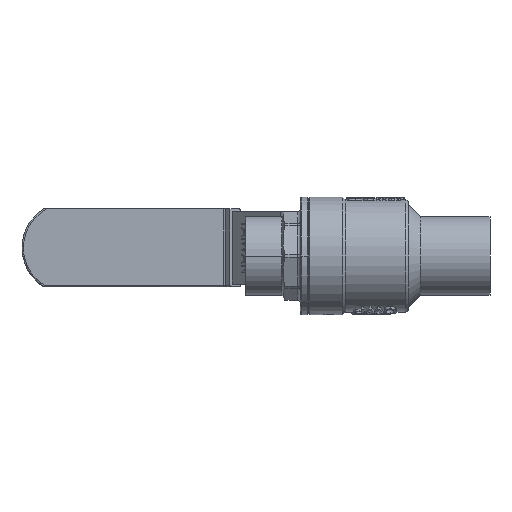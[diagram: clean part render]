
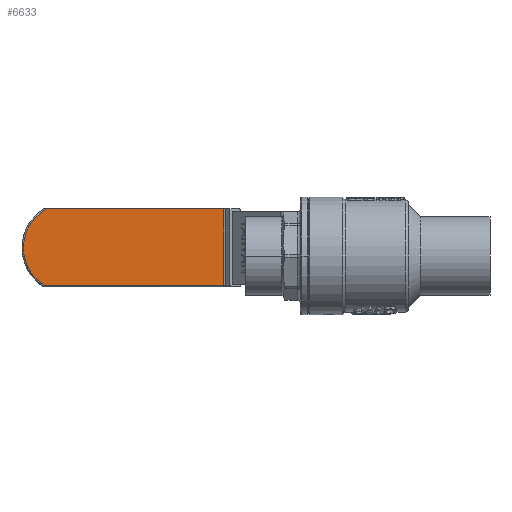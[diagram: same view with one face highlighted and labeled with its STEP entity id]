
A CAD part, front view. The second image highlights one B-rep face of the part: STEP entity #6633.
In plain terms, the highlighted planar face has unit normal (0, -1, 0).
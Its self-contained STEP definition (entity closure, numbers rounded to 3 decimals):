
#3380 = ORIENTED_EDGE ( 'NONE', *, *, #68131, .T. ) ;
#5030 = ORIENTED_EDGE ( 'NONE', *, *, #106559, .T. ) ;
#5799 = CARTESIAN_POINT ( 'NONE',  ( 105., 20.5, 0. ) ) ;
#6633 = ADVANCED_FACE ( 'NONE', ( #67453 ), #72790, .F. ) ;
#12113 = VECTOR ( 'NONE', #48602, 1000. ) ;
#14528 = DIRECTION ( 'NONE',  ( 0., 1., 0. ) ) ;
#15925 = DIRECTION ( 'NONE',  ( 0., 0., -1. ) ) ;
#20841 = CARTESIAN_POINT ( 'NONE',  ( 50.456, 20.5, -13.65 ) ) ;
#21005 = EDGE_CURVE ( 'NONE', #98211, #22870, #33605, .T. ) ;
#22113 = CARTESIAN_POINT ( 'NONE',  ( 112.344, 20.5, -13.65 ) ) ;
#22870 = VERTEX_POINT ( 'NONE', #91643 ) ;
#22993 = DIRECTION ( 'NONE',  ( 0., 0., 1. ) ) ;
#22996 = DIRECTION ( 'NONE',  ( 0., 0., 1. ) ) ;
#23373 = VECTOR ( 'NONE', #15925, 1000. ) ;
#31021 = DIRECTION ( 'NONE',  ( 0., -1., 0. ) ) ;
#31023 = CARTESIAN_POINT ( 'NONE',  ( 49.6, 20.5, 12.65 ) ) ;
#32003 = AXIS2_PLACEMENT_3D ( 'NONE', #5799, #31021, #22993 ) ;
#33315 = CARTESIAN_POINT ( 'NONE',  ( 50.456, 20.5, 13.15 ) ) ;
#33605 = CIRCLE ( 'NONE', #32003, 15.5 ) ;
#33792 = ORIENTED_EDGE ( 'NONE', *, *, #21005, .T. ) ;
#34442 = LINE ( 'NONE', #64733, #12113 ) ;
#36317 = LINE ( 'NONE', #107052, #23373 ) ;
#39425 = VECTOR ( 'NONE', #59257, 1000. ) ;
#48602 = DIRECTION ( 'NONE',  ( 1., 0., 0. ) ) ;
#50849 = ORIENTED_EDGE ( 'NONE', *, *, #90865, .T. ) ;
#55810 = AXIS2_PLACEMENT_3D ( 'NONE', #31023, #14528, #22996 ) ;
#59257 = DIRECTION ( 'NONE',  ( -1., 0., 0. ) ) ;
#60497 = VERTEX_POINT ( 'NONE', #20841 ) ;
#64733 = CARTESIAN_POINT ( 'NONE',  ( 49.6, 20.5, -13.65 ) ) ;
#65585 = VERTEX_POINT ( 'NONE', #33315 ) ;
#67453 = FACE_OUTER_BOUND ( 'NONE', #98383, .T. ) ;
#68131 = EDGE_CURVE ( 'NONE', #22870, #65585, #89022, .T. ) ;
#72790 = PLANE ( 'NONE',  #55810 ) ;
#76085 = CARTESIAN_POINT ( 'NONE',  ( 50.456, 20.5, 13.15 ) ) ;
#89022 = LINE ( 'NONE', #76085, #39425 ) ;
#90865 = EDGE_CURVE ( 'NONE', #65585, #60497, #36317, .T. ) ;
#91643 = CARTESIAN_POINT ( 'NONE',  ( 113.205, 20.5, 13.15 ) ) ;
#98211 = VERTEX_POINT ( 'NONE', #22113 ) ;
#98383 = EDGE_LOOP ( 'NONE', ( #5030, #33792, #3380, #50849 ) ) ;
#106559 = EDGE_CURVE ( 'NONE', #60497, #98211, #34442, .T. ) ;
#107052 = CARTESIAN_POINT ( 'NONE',  ( 50.456, 20.5, 12.65 ) ) ;
